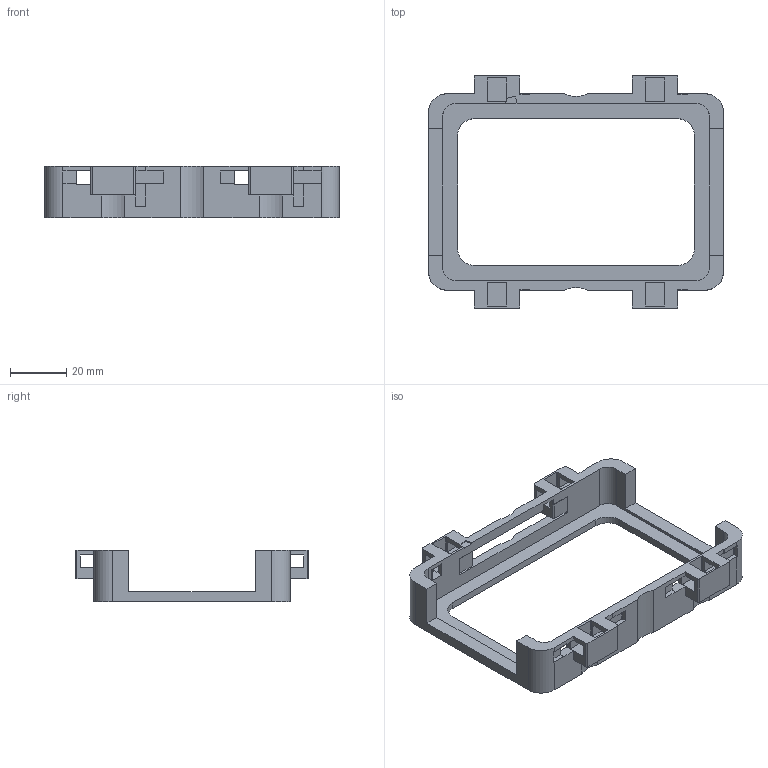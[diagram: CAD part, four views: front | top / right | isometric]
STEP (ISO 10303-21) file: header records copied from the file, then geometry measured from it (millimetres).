
FILE_DESCRIPTION(('Open CASCADE Model'),'2;1');
FILE_NAME('Open CASCADE Shape Model','2026-10-23T20:21:30',('Author'),( 'Open CASCADE'),'Open CASCADE STEP processor 7.8','Open CASCADE 7.8' ,'Unknown');
FILE_SCHEMA(('AUTOMOTIVE_DESIGN { 1 0 10303 214 1 1 1 1 }'));
Length unit declared in the file: millimetre
Products named in the file (1): Open CASCADE STEP translator 7.8 1
Bounding box: 104.6 x 82.8 x 18.4 mm (x, y, z)
Volume: 21352 mm3; surface area: 17971.1 mm2
Topology: 1 solids, 1 shells, 251 faces, 762 edges, 508 vertices
Faces by surface type: plane 164, cylinder 87
Entity records: 18308 total; most frequent: CARTESIAN_POINT 3735, DIRECTION 2558, LINE 1547, VECTOR 1547, ORIENTED_EDGE 1524, PCURVE 1524, DEFINITIONAL_REPRESENTATION 1524, EDGE_CURVE 762
